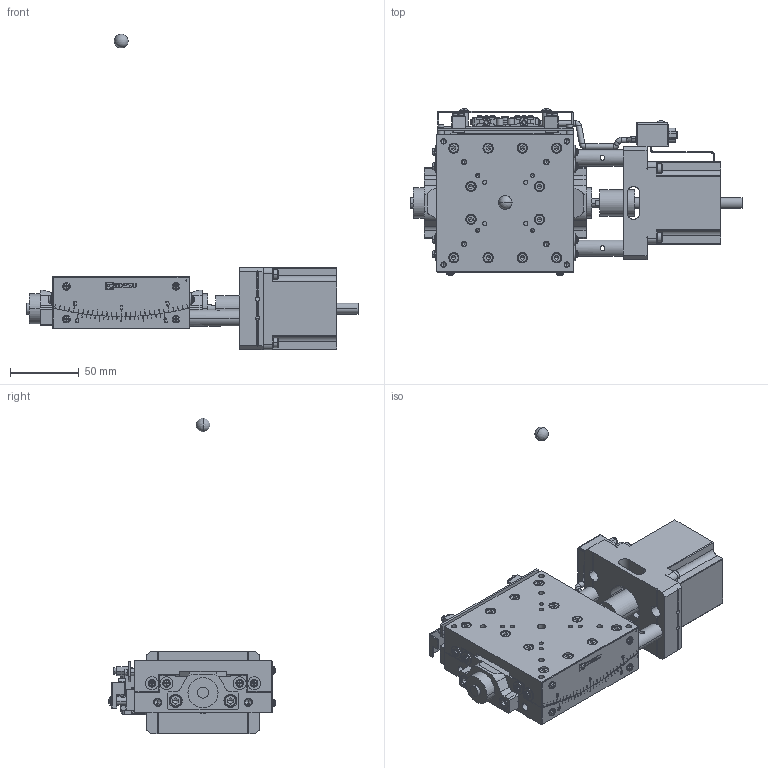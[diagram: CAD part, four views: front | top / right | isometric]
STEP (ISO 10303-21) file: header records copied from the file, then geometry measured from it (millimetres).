
FILE_DESCRIPTION( (''), '2;1');
FILE_NAME ('MVSA10A-RB01.stp','2021-03-16T10:48:13',(''),(''),'spGate 15.6.6','','');
FILE_SCHEMA (('AUTOMOTIVE_DESIGN'));
Length unit declared in the file: millimetre
Products named in the file (4): Assembly; MVSA10A-RB01-prt0; MVSA10A-RB01-prt1; MVSA10A-RB01-prt2
Assembly tree (3 placements, depth 2):
  Assembly
    MVSA10A-RB01-prt0
    MVSA10A-RB01-prt1
    MVSA10A-RB01-prt2
Bounding box: 242.3 x 121.67 x 230.3 mm (x, y, z)
Volume: 658850.8 mm3; surface area: 141122.5 mm2
Topology: 3 solids, 3 shells, 3596 faces, 9070 edges, 5595 vertices
Faces by surface type: plane 2035, cylinder 957, bspline 531, sphere 73
Entity records: 183808 total; most frequent: CARTESIAN_POINT 29374, ORIENTED_EDGE 17800, DIRECTION 16489, COLOUR_RGB 12499, PRESENTATION_STYLE_ASSIGNMENT 12499, STYLED_ITEM 12499, EDGE_CURVE 8900, DRAUGHTING_PRE_DEFINED_CURVE_FONT 8900
